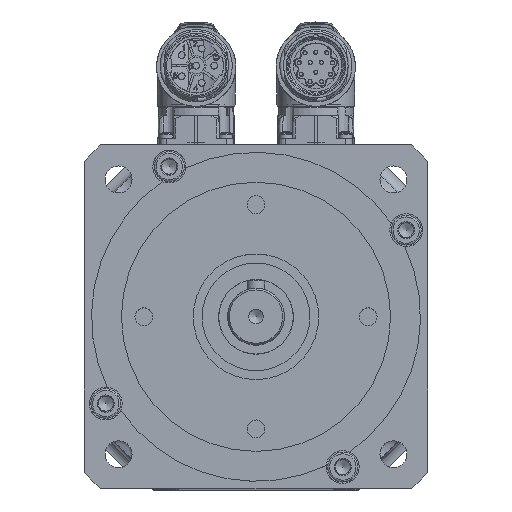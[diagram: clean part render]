
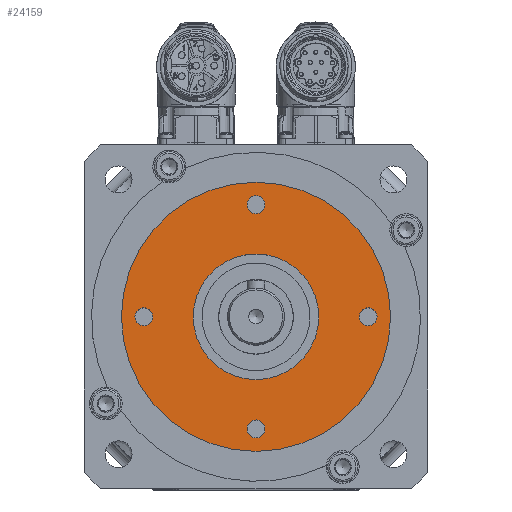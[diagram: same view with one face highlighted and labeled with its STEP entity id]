
A CAD part, top view. The second image highlights one B-rep face of the part: STEP entity #24159.
In plain terms, the highlighted planar face has unit normal (0, 0, 1).
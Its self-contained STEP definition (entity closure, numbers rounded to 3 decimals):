
#5327=PLANE('',#25725);
#5872=FACE_BOUND('',#7886,.T.);
#5873=FACE_BOUND('',#7887,.T.);
#5874=FACE_BOUND('',#7888,.T.);
#5875=FACE_BOUND('',#7889,.T.);
#5876=FACE_BOUND('',#7890,.T.);
#5877=FACE_BOUND('',#7891,.T.);
#7886=EDGE_LOOP('',(#16945));
#7887=EDGE_LOOP('',(#16946));
#7888=EDGE_LOOP('',(#16947));
#7889=EDGE_LOOP('',(#16948));
#7890=EDGE_LOOP('',(#16949));
#7891=EDGE_LOOP('',(#16950));
#9815=CIRCLE('',#25645,3.);
#9817=CIRCLE('',#25648,3.);
#9819=CIRCLE('',#25651,3.);
#9821=CIRCLE('',#25654,3.);
#9866=CIRCLE('',#25723,21.);
#9867=CIRCLE('',#25726,45.);
#10967=VERTEX_POINT('',#34628);
#10969=VERTEX_POINT('',#34633);
#10971=VERTEX_POINT('',#34638);
#10973=VERTEX_POINT('',#34643);
#11022=VERTEX_POINT('',#34773);
#11023=VERTEX_POINT('',#34777);
#13420=EDGE_CURVE('',#10967,#10967,#9815,.T.);
#13422=EDGE_CURVE('',#10969,#10969,#9817,.T.);
#13424=EDGE_CURVE('',#10971,#10971,#9819,.T.);
#13426=EDGE_CURVE('',#10973,#10973,#9821,.T.);
#13483=EDGE_CURVE('',#11022,#11022,#9866,.T.);
#13484=EDGE_CURVE('',#11023,#11023,#9867,.T.);
#16945=ORIENTED_EDGE('',*,*,#13420,.T.);
#16946=ORIENTED_EDGE('',*,*,#13422,.T.);
#16947=ORIENTED_EDGE('',*,*,#13424,.T.);
#16948=ORIENTED_EDGE('',*,*,#13426,.T.);
#16949=ORIENTED_EDGE('',*,*,#13483,.T.);
#16950=ORIENTED_EDGE('',*,*,#13484,.F.);
#24159=ADVANCED_FACE('',(#5872,#5873,#5874,#5875,#5876,#5877),#5327,.T.);
#25645=AXIS2_PLACEMENT_3D('',#34629,#28245,#28246);
#25648=AXIS2_PLACEMENT_3D('',#34634,#28251,#28252);
#25651=AXIS2_PLACEMENT_3D('',#34639,#28257,#28258);
#25654=AXIS2_PLACEMENT_3D('',#34644,#28263,#28264);
#25723=AXIS2_PLACEMENT_3D('',#34774,#28413,#28414);
#25725=AXIS2_PLACEMENT_3D('',#34776,#28417,#28418);
#25726=AXIS2_PLACEMENT_3D('',#34778,#28419,#28420);
#28245=DIRECTION('center_axis',(0.,0.,-1.));
#28246=DIRECTION('ref_axis',(0.,-1.,0.));
#28251=DIRECTION('center_axis',(0.,0.,-1.));
#28252=DIRECTION('ref_axis',(-1.,0.,0.));
#28257=DIRECTION('center_axis',(0.,0.,-1.));
#28258=DIRECTION('ref_axis',(0.,1.,0.));
#28263=DIRECTION('center_axis',(0.,0.,-1.));
#28264=DIRECTION('ref_axis',(1.,0.,0.));
#28413=DIRECTION('center_axis',(0.,0.,-1.));
#28414=DIRECTION('ref_axis',(-1.,0.,0.));
#28417=DIRECTION('center_axis',(0.,0.,1.));
#28418=DIRECTION('ref_axis',(1.,0.,0.));
#28419=DIRECTION('center_axis',(0.,0.,-1.));
#28420=DIRECTION('ref_axis',(-1.,0.,0.));
#34628=CARTESIAN_POINT('',(37.5,-3.,11.5));
#34629=CARTESIAN_POINT('Origin',(37.5,0.,11.5));
#34633=CARTESIAN_POINT('',(-3.,-37.5,11.5));
#34634=CARTESIAN_POINT('Origin',(0.,-37.5,11.5));
#34638=CARTESIAN_POINT('',(-37.5,3.,11.5));
#34639=CARTESIAN_POINT('Origin',(-37.5,0.,11.5));
#34643=CARTESIAN_POINT('',(3.,37.5,11.5));
#34644=CARTESIAN_POINT('Origin',(0.,37.5,11.5));
#34773=CARTESIAN_POINT('',(21.,0.,11.5));
#34774=CARTESIAN_POINT('Origin',(0.,0.,11.5));
#34776=CARTESIAN_POINT('Origin',(0.,0.,
11.5));
#34777=CARTESIAN_POINT('',(45.,0.,11.5));
#34778=CARTESIAN_POINT('Origin',(0.,0.,11.5));
